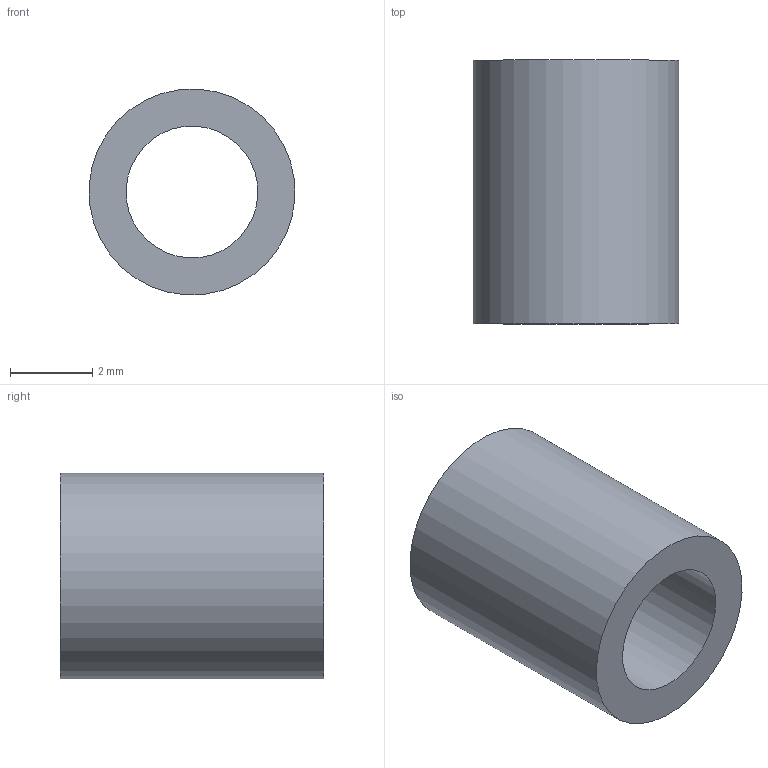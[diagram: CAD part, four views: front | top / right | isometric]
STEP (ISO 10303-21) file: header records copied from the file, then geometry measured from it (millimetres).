
FILE_DESCRIPTION(/* description */ (''),/* implementation_level */ '2;1');
FILE_NAME(/* name */ '3-25-4 Shock spacer.step',/* time_stamp */ '2025-05-10T22:05:35+02:00',/* author */ (''),/* organization */ (''),/* preprocessor_version */ 'ST-DEVELOPER v20.1',/* originating_system */ 'Autodesk Translation Framework v14.4.0.0',/* authorisation */ '');
FILE_SCHEMA (('AUTOMOTIVE_DESIGN { 1 0 10303 214 3 1 1 }'));
Length unit declared in the file: millimetre
Products named in the file (1): 3-25-4 Shock spacer
Bounding box: 4.99 x 6.4 x 4.99 mm (x, y, z)
Volume: 74.2 mm3; surface area: 188.1 mm2
Topology: 1 solids, 1 shells, 4 faces, 6 edges, 4 vertices
Faces by surface type: cylinder 2, plane 2
Full cylindrical faces by diameter (mm): 3.2 x1, 5 x1
Entity records: 138 total; most frequent: DIRECTION 20, CARTESIAN_POINT 15, ORIENTED_EDGE 12, AXIS2_PLACEMENT_3D 9, EDGE_LOOP 6, EDGE_CURVE 6, FACE_OUTER_BOUND 4, CIRCLE 4
